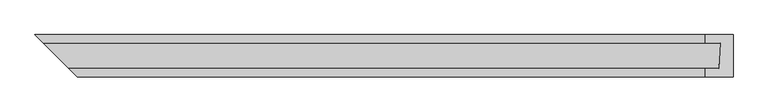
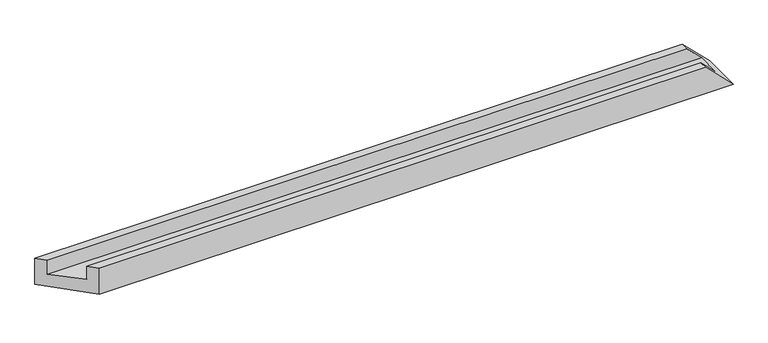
"""IFC4 building model written with IfcOpenShell, lengths in millimetres: proxy geometry, Weiku - Montante - Caixilho duplo 02.2.01.002 de canto : Weiku - Montante - Caixilho duplo 02.2.01.002 de canto."""

from ifc_helpers import new_model, si_unit, origin, place, context, project, spatial, faceted_brep, source, transform, mapped, element, save


def generic_models_8c7694a2(model_context):
    return source(origin(), model_context, "Body", "Brep", [
        faceted_brep([(546.5, 15.0, 52.0), (572.5, 15.0, 26.0), (-613.5, 15.0, 26.0), (-613.5, 15.0, 52.0), (574.7229744, 62.0, 23.7770256), (-660.5, 62.0, 23.7770256), (546.5, 62.0, 52.0), (-660.5, 62.0, 52.0), (546.5, 77.0, 52.0), (-675.5, 77.0, 52.0), (598.5, 77.0, 0.0), (-675.5, 77.0, 0.0), (598.5, 0.0, 0.0), (-598.5, 0.0, 0.0), (546.5, 0.0, 52.0), (-598.5, 0.0, 52.0)], [[[0, 1, 2, 3]], [[1, 4, 5, 2]], [[4, 6, 7, 5]], [[6, 8, 9, 7]], [[8, 10, 11, 9]], [[10, 12, 13, 11]], [[12, 14, 15, 13]], [[14, 0, 3, 15]], [[3, 2, 5, 7, 9, 11, 13, 15]], [[1, 0, 14, 12, 10, 8, 6, 4]]]),
    ])


if __name__ == "__main__":
    model = new_model("IFC4")
    model_context = context("Model", 3, world=origin())
    ifc_project = project(units=[si_unit("LENGTHUNIT", "METRE", prefix="MILLI")], contexts=[model_context])
    site = spatial("IfcSite", under=ifc_project)
    building = spatial("IfcBuilding", under=site)
    placement = place(None, origin())
    generic_models_shape = generic_models_8c7694a2(model_context)
    element("IfcBuildingElementProxy", 1, Name="Weiku - Montante - Caixilho duplo 02.2.01.002 de canto : Weiku - Montante - Caixilho duplo 02.2.01.002 de canto", ObjectType="Weiku - Montante - Caixilho duplo 02.2.01.002 de canto : Weiku - Montante - Caixilho duplo 02.2.01.002 de canto", at=placement, inside=building, context=model_context, shape_type="MappedRepresentation", body=[
        mapped(generic_models_shape, transform((0.0, 0.0, 0.0), x_axis=(1.0, 0.0, 0.0), y_axis=(0.0, 1.0, 0.0), z_axis=(0.0, 0.0, 1.0))),
    ])
    save(model, "model.ifc")
